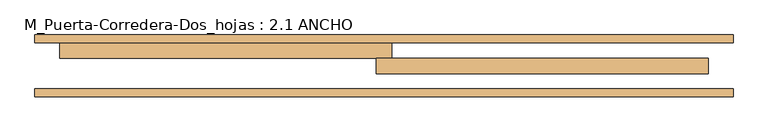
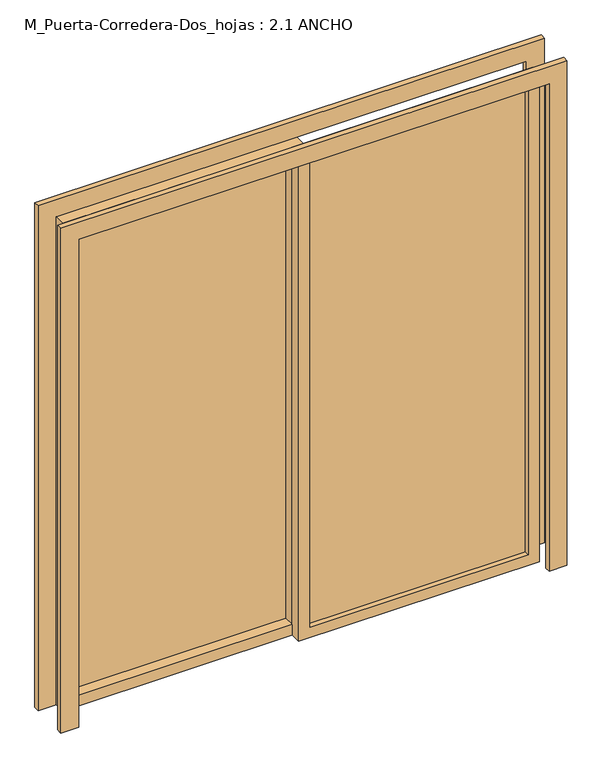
"""IFC4 building model written with IfcOpenShell, lengths in millimetres: door geometry, M_Puerta-Corredera-Dos_hojas : 2.1 ANCHO."""

from ifc_helpers import new_model, si_unit, frame, origin, place, context, project, spatial, polyline, outline, extrude, source, transform, mapped, element, save


def m_puerta_corredera_dos_hojas_2_1_ancho_d19f291b(model_context):
    return source(origin(), model_context, "Body", "SweptSolid", [
        extrude(outline(polyline([(0.0, -1130.0), (0.0, -1050.0), (2300.0, -1050.0), (2300.0, 1050.0), (0.0, 1050.0), (0.0, 1130.0), (2380.0, 1130.0), (2380.0, -1130.0), (0.0, -1130.0)])), frame((0.0, 27.0, 0.0), z_axis=(0.0, 1.0, 0.0), x_axis=(0.0, 0.0, 1.0)), (0.0, 0.0, 1.0), 25.0),
        extrude(outline(polyline([(0.0, 1130.0), (2380.0, 1130.0), (2380.0, -1130.0), (0.0, -1130.0), (0.0, -1050.0), (2300.0, -1050.0), (2300.0, 1050.0), (0.0, 1050.0), (0.0, 1130.0)])), frame((0.0, 202.0, 0.0), z_axis=(0.0, 1.0, 0.0), x_axis=(0.0, 0.0, 1.0)), (0.0, 0.0, 1.0), 25.0),
        extrude(outline(polyline([(2300.0, -25.0), (0.0, -25.0), (0.0, 1050.0), (2300.0, 1050.0), (2300.0, -25.0)]), holes=[polyline([(2250.0, 25.0), (2250.0, 1000.0), (50.0, 1000.0), (50.0, 25.0), (2250.0, 25.0)])]), frame((0.0, 102.0, 0.0), z_axis=(0.0, 1.0, 0.0), x_axis=(0.0, 0.0, 1.0)), (0.0, 0.0, 1.0), 50.0),
        extrude(outline(polyline([(2300.0, 25.0), (2300.0, -1050.0), (0.0, -1050.0), (0.0, 25.0), (2300.0, 25.0)]), holes=[polyline([(2250.0, -25.0), (50.0, -25.0), (50.0, -1000.0), (2250.0, -1000.0), (2250.0, -25.0)])]), frame((0.0, 152.0, 0.0), z_axis=(0.0, 1.0, 0.0), x_axis=(0.0, 0.0, 1.0)), (0.0, 0.0, 1.0), 50.0),
        extrude(outline(polyline([(25.0, 130.175), (1000.0, 130.175), (1000.0, 123.825), (25.0, 123.825), (25.0, 130.175)])), frame((0.0, 0.0, 50.0), z_axis=(0.0, 0.0, 1.0), x_axis=(1.0, 0.0, 0.0)), (0.0, 0.0, 1.0), 2200.0),
        extrude(outline(polyline([(-25.0, 200.025), (-1000.0, 200.025), (-1000.0, 206.375), (-25.0, 206.375), (-25.0, 200.025)])), frame((0.0, 0.0, 50.0), z_axis=(0.0, 0.0, 1.0), x_axis=(1.0, 0.0, 0.0)), (0.0, 0.0, 1.0), 2200.0),
    ])


if __name__ == "__main__":
    model = new_model("IFC4")
    model_context = context("Model", 3, world=origin())
    ifc_project = project(units=[si_unit("LENGTHUNIT", "METRE", prefix="MILLI")], contexts=[model_context])
    site = spatial("IfcSite", under=ifc_project)
    building = spatial("IfcBuilding", under=site)
    placement = place(None, origin())
    m_puerta_corredera_dos_hojas_2_1_ancho_shape = m_puerta_corredera_dos_hojas_2_1_ancho_d19f291b(model_context)
    element("IfcDoor", 1, ObjectType="M_Puerta-Corredera-Dos_hojas : 2.1 ANCHO", at=placement, inside=building, context=model_context, shape_type="MappedRepresentation", body=[
        mapped(m_puerta_corredera_dos_hojas_2_1_ancho_shape, transform((0.0, 0.0, 0.0), x_axis=(1.0, 0.0, 0.0), y_axis=(0.0, 1.0, 0.0), z_axis=(0.0, 0.0, 1.0))),
    ])
    save(model, "model.ifc")
